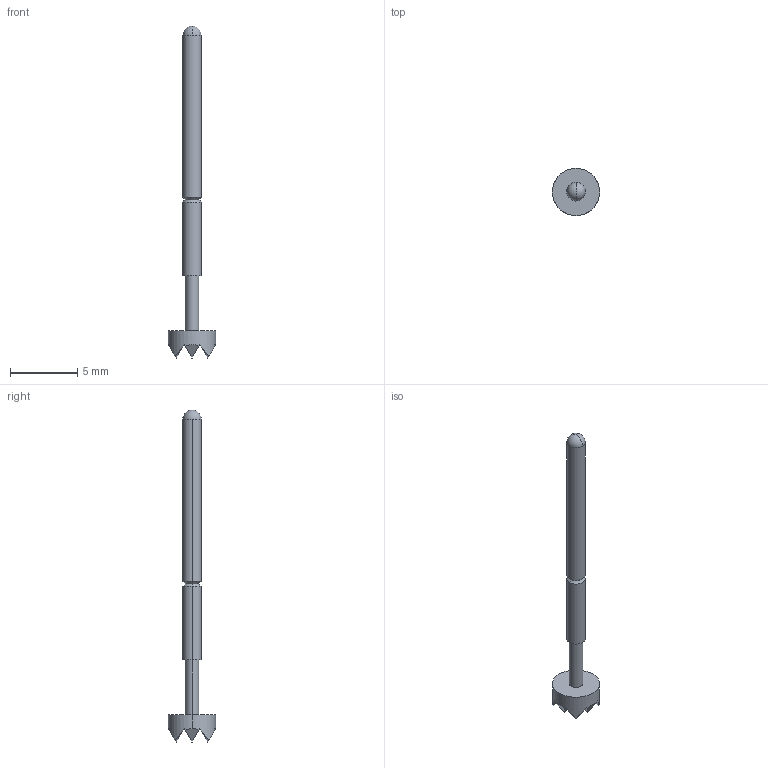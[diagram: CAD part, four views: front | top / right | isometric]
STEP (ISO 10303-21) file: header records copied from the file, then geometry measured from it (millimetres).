
FILE_DESCRIPTION (( 'STEP AP214' ), '1' );
FILE_NAME ('PA3H-3.5.STEP', '2024-07-10T08:59:34', ( '' ), ( '' ), 'SwSTEP 2.0', 'SolidWorks 2024', '' );
FILE_SCHEMA (( 'AUTOMOTIVE_DESIGN' ));
Length unit declared in the file: millimetre
Products named in the file (1): PA3H-3.5
Bounding box: 3.5 x 3.5 x 24.64 mm (x, y, z)
Volume: 43.5 mm3; surface area: 136.2 mm2
Topology: 1 solids, 1 shells, 62 faces, 168 edges, 109 vertices
Faces by surface type: plane 48, cylinder 8, cone 4, sphere 2
Entity records: 1941 total; most frequent: CARTESIAN_POINT 428, ORIENTED_EDGE 332, DIRECTION 290, EDGE_CURVE 166, VERTEX_POINT 109, VECTOR 108, LINE 108, AXIS2_PLACEMENT_3D 91
